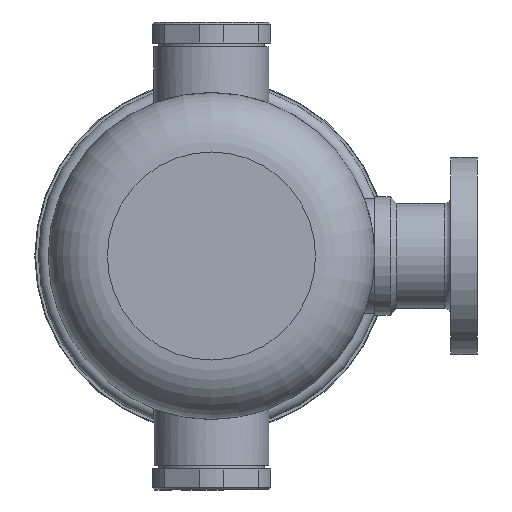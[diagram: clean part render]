
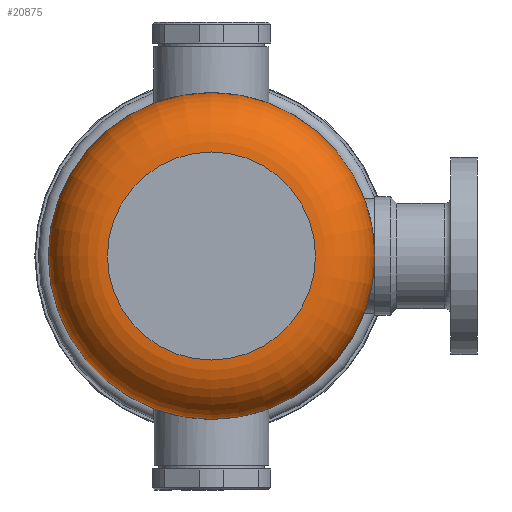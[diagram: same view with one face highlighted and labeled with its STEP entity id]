
A CAD part, front view. The second image highlights one B-rep face of the part: STEP entity #20875.
In plain terms, the highlighted toroidal (fillet/blend) face has major radius 31.65 mm and minor radius 18 mm.
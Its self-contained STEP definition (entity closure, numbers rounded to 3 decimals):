
#5524=FACE_BOUND('',#7941,.T.);
#5547=TOROIDAL_SURFACE('',#21728,31.65,18.);
#6651=FACE_OUTER_BOUND('',#7940,.T.);
#7940=EDGE_LOOP('',(#18936));
#7941=EDGE_LOOP('',(#18937));
#8092=CIRCLE('',#21729,49.65);
#8093=CIRCLE('',#21730,31.65);
#10075=VERTEX_POINT('',#38219);
#10076=VERTEX_POINT('',#38221);
#13034=EDGE_CURVE('',#10075,#10075,#8092,.T.);
#13035=EDGE_CURVE('',#10076,#10076,#8093,.T.);
#18936=ORIENTED_EDGE('',*,*,#13034,.F.);
#18937=ORIENTED_EDGE('',*,*,#13035,.T.);
#20875=ADVANCED_FACE('',(#6651,#5524),#5547,.T.);
#21728=AXIS2_PLACEMENT_3D('',#38218,#25431,#25432);
#21729=AXIS2_PLACEMENT_3D('',#38220,#25433,#25434);
#21730=AXIS2_PLACEMENT_3D('',#38222,#25435,#25436);
#25431=DIRECTION('center_axis',(0.,1.,0.));
#25432=DIRECTION('ref_axis',(0.,0.,
-1.));
#25433=DIRECTION('center_axis',(0.,1.,0.));
#25434=DIRECTION('ref_axis',(1.,0.,0.));
#25435=DIRECTION('center_axis',(0.,1.,0.));
#25436=DIRECTION('ref_axis',(1.,0.,0.));
#38218=CARTESIAN_POINT('Origin',(0.,26.67,
-0.022));
#38219=CARTESIAN_POINT('',(49.65,26.67,-0.022));
#38220=CARTESIAN_POINT('Origin',(0.,26.67,
-0.022));
#38221=CARTESIAN_POINT('',(31.65,8.67,-0.022));
#38222=CARTESIAN_POINT('Origin',(0.,8.67,
-0.022));
